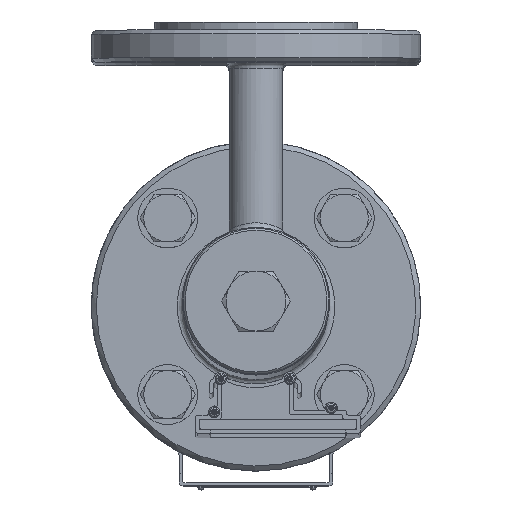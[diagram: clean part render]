
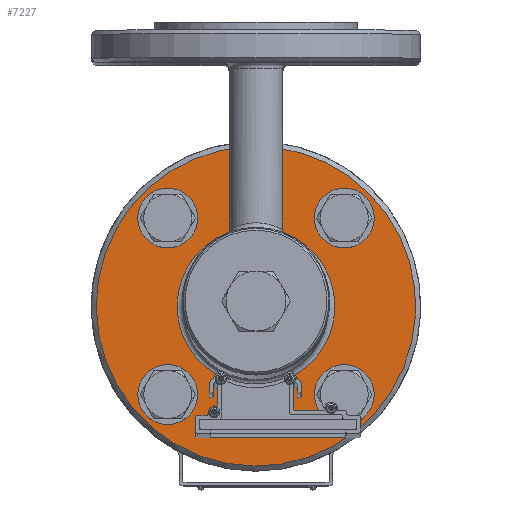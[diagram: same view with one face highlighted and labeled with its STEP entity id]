
A CAD part, top view. The second image highlights one B-rep face of the part: STEP entity #7227.
In plain terms, the highlighted planar face has unit normal (0, 0, 1).
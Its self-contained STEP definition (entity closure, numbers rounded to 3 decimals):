
#1500=PLANE('',#7734);
#1753=FACE_BOUND('',#2412,.T.);
#1754=FACE_BOUND('',#2413,.T.);
#1755=FACE_BOUND('',#2414,.T.);
#1756=FACE_BOUND('',#2415,.T.);
#1757=FACE_BOUND('',#2416,.T.);
#1919=FACE_OUTER_BOUND('',#2411,.T.);
#2411=EDGE_LOOP('',(#5158));
#2412=EDGE_LOOP('',(#5159));
#2413=EDGE_LOOP('',(#5160));
#2414=EDGE_LOOP('',(#5161));
#2415=EDGE_LOOP('',(#5162));
#2416=EDGE_LOOP('',(#5163));
#3015=CIRCLE('',#7733,10.);
#3016=CIRCLE('',#7735,80.);
#3017=CIRCLE('',#7736,10.);
#3018=CIRCLE('',#7737,10.);
#3019=CIRCLE('',#7738,39.5);
#3020=CIRCLE('',#7739,10.);
#3396=VERTEX_POINT('',#10960);
#3397=VERTEX_POINT('',#10963);
#3398=VERTEX_POINT('',#10965);
#3399=VERTEX_POINT('',#10967);
#3400=VERTEX_POINT('',#10969);
#3401=VERTEX_POINT('',#10971);
#4115=EDGE_CURVE('',#3396,#3396,#3015,.T.);
#4116=EDGE_CURVE('',#3397,#3397,#3016,.T.);
#4117=EDGE_CURVE('',#3398,#3398,#3017,.T.);
#4118=EDGE_CURVE('',#3399,#3399,#3018,.T.);
#4119=EDGE_CURVE('',#3400,#3400,#3019,.T.);
#4120=EDGE_CURVE('',#3401,#3401,#3020,.T.);
#5158=ORIENTED_EDGE('',*,*,#4116,.F.);
#5159=ORIENTED_EDGE('',*,*,#4117,.F.);
#5160=ORIENTED_EDGE('',*,*,#4118,.F.);
#5161=ORIENTED_EDGE('',*,*,#4119,.F.);
#5162=ORIENTED_EDGE('',*,*,#4120,.F.);
#5163=ORIENTED_EDGE('',*,*,#4115,.F.);
#7227=ADVANCED_FACE('',(#1919,#1753,#1754,#1755,#1756,#1757),#1500,.T.);
#7733=AXIS2_PLACEMENT_3D('',#10961,#8689,#8690);
#7734=AXIS2_PLACEMENT_3D('',#10962,#8691,#8692);
#7735=AXIS2_PLACEMENT_3D('',#10964,#8693,#8694);
#7736=AXIS2_PLACEMENT_3D('',#10966,#8695,#8696);
#7737=AXIS2_PLACEMENT_3D('',#10968,#8697,#8698);
#7738=AXIS2_PLACEMENT_3D('',#10970,#8699,#8700);
#7739=AXIS2_PLACEMENT_3D('',#10972,#8701,#8702);
#8689=DIRECTION('center_axis',(0.,0.,1.));
#8690=DIRECTION('ref_axis',(1.,0.,0.));
#8691=DIRECTION('center_axis',(0.,0.,1.));
#8692=DIRECTION('ref_axis',(1.,0.,0.));
#8693=DIRECTION('center_axis',(0.,0.,-1.));
#8694=DIRECTION('ref_axis',(1.,0.,0.));
#8695=DIRECTION('center_axis',(0.,0.,1.));
#8696=DIRECTION('ref_axis',(1.,0.,0.));
#8697=DIRECTION('center_axis',(0.,0.,1.));
#8698=DIRECTION('ref_axis',(1.,0.,0.));
#8699=DIRECTION('center_axis',(0.,0.,1.));
#8700=DIRECTION('ref_axis',(1.,0.,0.));
#8701=DIRECTION('center_axis',(0.,0.,1.));
#8702=DIRECTION('ref_axis',(1.,0.,0.));
#10960=CARTESIAN_POINT('',(-54.194,44.194,20.));
#10961=CARTESIAN_POINT('Origin',(-44.194,44.194,20.));
#10962=CARTESIAN_POINT('Origin',(0.,0.,
20.));
#10963=CARTESIAN_POINT('',(-80.,0.,20.));
#10964=CARTESIAN_POINT('Origin',(0.,0.,20.));
#10965=CARTESIAN_POINT('',(34.194,44.194,20.));
#10966=CARTESIAN_POINT('Origin',(44.194,44.194,20.));
#10967=CARTESIAN_POINT('',(34.194,-44.194,20.));
#10968=CARTESIAN_POINT('Origin',(44.194,-44.194,20.));
#10969=CARTESIAN_POINT('',(-39.5,0.,20.));
#10970=CARTESIAN_POINT('Origin',(0.,0.,20.));
#10971=CARTESIAN_POINT('',(-54.194,-44.194,20.));
#10972=CARTESIAN_POINT('Origin',(-44.194,-44.194,20.));
